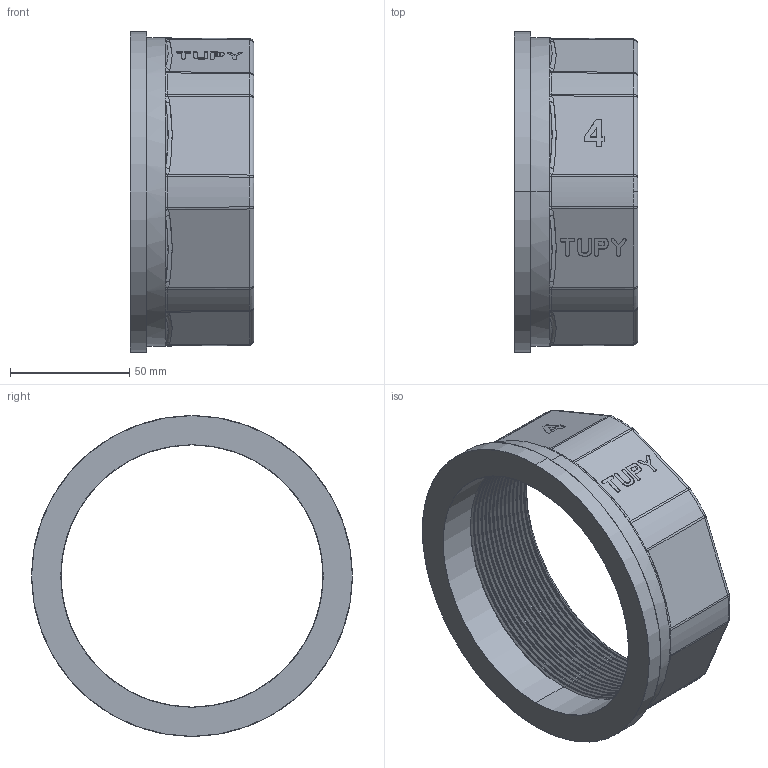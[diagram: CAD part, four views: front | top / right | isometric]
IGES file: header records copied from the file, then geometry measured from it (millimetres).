
Start section: SolidWorks IGES file using analytic representation for surfaces
Global section: file name: C:\Users\Joel Rosa\Desktop\Tubulação\12-83-OK\12-83-014.IGS; native system: SolidWorks 2011; preprocessor: SolidWorks 2011; author: Joel Rosa; date: 131217.003353; units: millimetre
Bounding box: 52 x 134.6 x 134.6 mm (x, y, z)
Surface area: 55786.7 mm2 (no closed solid volume)
Topology: 0 solids, 0 shells, 364 faces, 2611 edges, 2611 vertices
Faces by surface type: bspline 271, revolution 93
